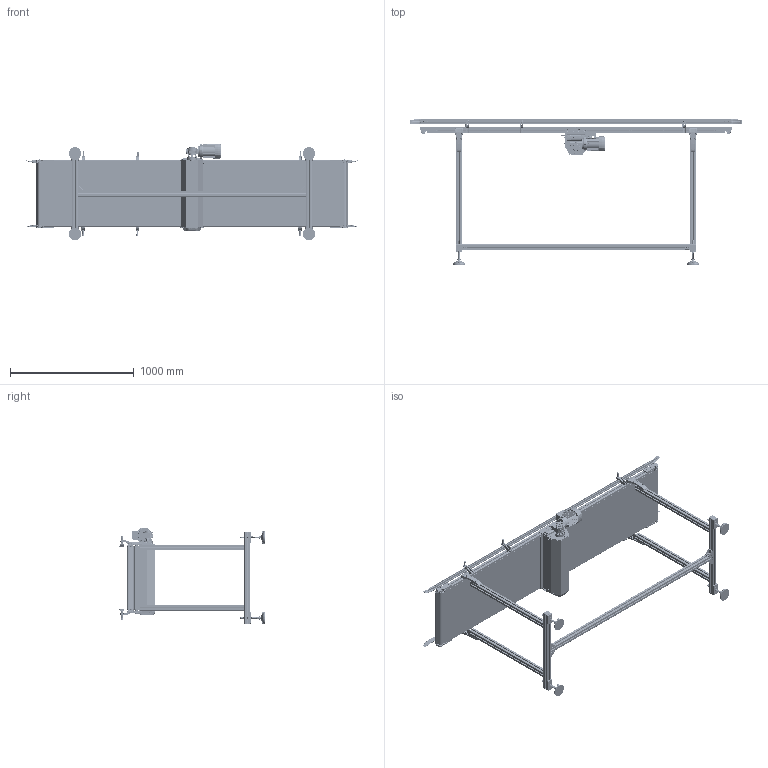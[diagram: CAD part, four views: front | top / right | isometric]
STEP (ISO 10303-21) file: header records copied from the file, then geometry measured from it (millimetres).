
FILE_DESCRIPTION (( 'STEP AP203' ), '1' );
FILE_NAME ('NASTRO_RETTILINEO_TAPPETO.step', '2026-04-21T11:55:16', ( 'Utente Windows' ), ( '' ), 'SwSTEP 2.0', 'SolidWorks 2024', '' );
FILE_SCHEMA (( 'CONFIG_CONTROL_DESIGN' ));
Length unit declared in the file: millimetre
Products named in the file (98): BLOCCO_TRAINO_50-95_CENTRALE_30; VITE_RONDELLA_M8X20; GAMBE_D50_Default<A macchina>; VITI TE UNI 5739 INOX_M5x12 UNI 5739 INOX; FLANGIA_GAMBA_50; VITI TSEI UNI 5933_M8x16 UNI 5933; 084.814.001-1; 2010.000.068; 084.302.017; 084.807.016_084.807.002; 084.802.020; 084.711.007; RONDELLE UNI 6592_5.3x10 UNI 6592; 084.807.015_084.807.002; 084.802.064; 084.302.000 DADI ALUSIC 13x13-1_084.302.004; PERNO_SUP_95_PENNA; P210RLM-0816-77; 084.810.003; 084.201.012; 084.711.010; 084.711.006_L1; 084.802.003; VITI TE UNI 5739_M6x16 UNI 5739; PERNO_SUP_50_PENNA; 2010.000.068_L; 084.305.003-1; VITI TE UNI 5739_M6x50 UNI 5739; 084.303.001; BLOCCO_TRAINO_50-95_CENTRALE; CHIAVETTE_A 8x7x20 UNI 6604-69; 084.802.021; TRAVERSA_50_Default<A macchina>; 084.301.000 VITI ALUSIC_084.301.009; RULLO_TENSIONAMENTO_50-95_CENTRALE; RONDELLE UNI 6592_6.4x12.5 UNI 6592; PERNO_INF_50_PENNA; 08UNI7435; 084.302.000 DADI ALUSIC 13x13-1_084.302.009; RULLO_SUP_50_PENNA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
Assembly tree (249 placements, depth 4):
  P210RLM-0816-77
  NASTRO_RETTILINEO_TAPPETO
    TAPPETO_CENTRALE_2PENNE
    TELAIO_50_STANDARD_Default<A macchina>
    LAMIERA_2_PENNE  x2
    RULLO_SUP_50_PENNA  x2
    BLOCCO_RINVIO_50_PENNA_DX  x2
      084.802.036
      084.807.015_084.807.002
      VITI TCEI UNI 5931_M6x30 UNI 5931
      084.827.040
      VITI TCEI UNI 5931_M6x20 UNI 5931
      084.301.000 VITI ALUSIC_084.301.036
      084.302.016
      084.301.000 VITI ALUSIC_084.301.003
      08UNI7435
      12UNI7435
    PERNO_SUP_50_PENNA
    BLOCCO_RINVIO_50_PENNA_SX  x2
      084.807.016_084.807.002
      084.809.007
      084.802.036
      VITI TCEI UNI 5931_M6x30 UNI 5931
      RONDELLE UNI 6592_5.3x10 UNI 6592
      VITI TCEI UNI 5931_M6x20 UNI 5931
      084.301.000 VITI ALUSIC_084.301.036
      084.302.016
      084.301.000 VITI ALUSIC_084.301.003
      VITI TE UNI 5739 INOX_M5x12 UNI 5739 INOX
      12UNI7435
      08UNI7435
    RULLO_INF_50_PENNA  x2
    PERNO_INF_50_PENNA  x2
    PERNO_SUP_95_PENNA
    RULLO_95_Default<A macchina>
    BLOCCO_TRAINO_50-95_CENTRALE_30
      084.802.009
      084.802.021
      084.802.004-1  x2
      084.802.003
      VITI TSEI UNI 5933_M8x20 UNI 5933  x4
      084.302.017
      VITI TE UNI 5739_M6x16 UNI 5739  x6
      RONDELLE UNI 6592_6.4x12.5 UNI 6592  x2
      DADI ESAGONALI NORMALI UNI 5588_M6 UNI 5588  x2
      VITI TE UNI 5739_M6x50 UNI 5739  x2
      VITI TSEI UNI 5933_M6x12 UNI 5933  x6
      VITI TSEI UNI 5933_M8x16 UNI 5933  x3
      084.802.070
    BLOCCO_TRAINO_50-95_CENTRALE
      084.802.004-1  x2
      084.802.020
      084.802.003
      VITI TSEI UNI 5933_M8x20 UNI 5933  x4
      VITI TSEI UNI 5933_M6x12 UNI 5933  x6
      RONDELLE UNI 6592_8.4x17 UNI 6592  x2
      VITI TE UNI 5739_M8x12 UNI 5739  x2
      VITI TE UNI 5739_M6x16 UNI 5739  x2
      084.302.017
      RONDELLE UNI 6592_6.4x12.5 UNI 6592  x2
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Bounding box: 2678.97 x 1172.1 x 777.82 mm (x, y, z)
Volume: 25071872.1 mm3; surface area: 20629684.5 mm2
Topology: 424 solids, 428 shells, 19039 faces, 48778 edges, 30805 vertices
Faces by surface type: plane 7203, cylinder 6731, bspline 1891, cone 1757, torus 1210, sphere 247
Entity records: 318347 total; most frequent: CARTESIAN_POINT 120473, ORIENTED_EDGE 40812, DIRECTION 35571, EDGE_CURVE 20406, VERTEX_POINT 13079, AXIS2_PLACEMENT_3D 12941, VECTOR 9689, LINE 9689
